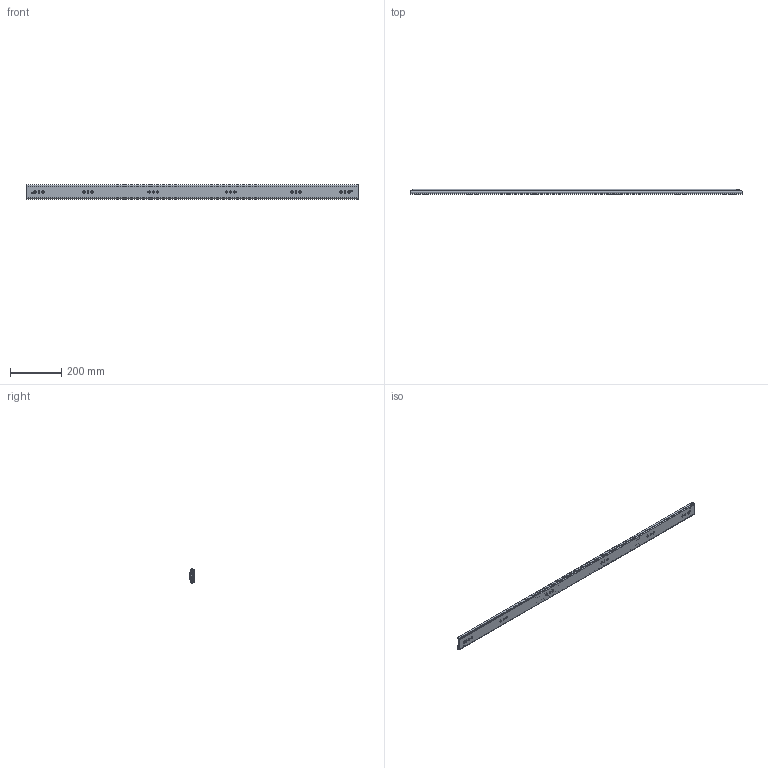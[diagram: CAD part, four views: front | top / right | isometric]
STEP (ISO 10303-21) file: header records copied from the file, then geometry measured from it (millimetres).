
FILE_DESCRIPTION((''),'2;1');
FILE_NAME('1057-C-52_ASM','2025-10-24T',('蔽翩'),(''),'CREO PARAMETRIC BY PTC INC, 2018220','CREO PARAMETRIC BY PTC INC, 2018220','');
FILE_SCHEMA(('CONFIG_CONTROL_DESIGN'));
Products named in the file (21): KP-57-01WEIKE-31_____________; MAODING-WAI_____________; 1057DAZHUJIA-20GE1_____________; 1057ZHUJIADANWEIJIAO1234; 1057-5-6GANZHU1_____________; 1057DAZHUJIA-20GE_12_____ASM; 1057-C-20-KE______________ASM; KP-57-01ZHONGGUI-36_____; PEIJIAN-22_____________; ZHUANJIAO112_____________; LIUJIAO-DING11_____________; MAODING-P_____________; 1057-XIAOJIAOLUN52; PEIJIAN-ZHONG______________ASM; 1057XIAOZHUJIA___2011_; 1057XIAOZHUJIA-20GE11__ASM; KP-57-01ZHONGGUI-36______ASM; KP-57-01NEIGUI-241_____________; XIN-JIAOGUAN52; KP-57-01NEIGUI-241______________ASM; 1057-C-52_ASM
Assembly tree (211 placements, depth 4):
  1057-C-52_ASM
    1057-C-20-KE______________ASM
      KP-57-01WEIKE-31_____________
      MAODING-WAI_____________  x2
      1057DAZHUJIA-20GE_12_____ASM
        1057DAZHUJIA-20GE1_____________
        1057ZHUJIADANWEIJIAO1234  x2
        1057-5-6GANZHU1_____________  x92
    KP-57-01ZHONGGUI-36______ASM
      KP-57-01ZHONGGUI-36_____
      PEIJIAN-ZHONG______________ASM  x2
        PEIJIAN-22_____________
        ZHUANJIAO112_____________
        LIUJIAO-DING11_____________
        MAODING-P_____________
        1057-XIAOJIAOLUN52
      MAODING-WAI_____________  x2
      1057XIAOZHUJIA-20GE11__ASM
        1057XIAOZHUJIA___2011_
        1057-5-6GANZHU1_____________  x92
        1057ZHUJIADANWEIJIAO1234  x2
    KP-57-01NEIGUI-241______________ASM
      KP-57-01NEIGUI-241_____________
      XIN-JIAOGUAN52  x2
Bounding box: 1300 x 19.8 x 57.67 mm (x, y, z)
Volume: 561916.4 mm3; surface area: 656973.8 mm2
Topology: 209 solids, 209 shells, 5166 faces, 14382 edges, 8892 vertices
Faces by surface type: plane 2310, cylinder 2118, sphere 374, bspline 146, cone 114, torus 96, extrusion 8
Entity records: 149389 total; most frequent: CARTESIAN_POINT 31127, DIRECTION 25184, ORIENTED_EDGE 24502, EDGE_CURVE 12251, AXIS2_PLACEMENT_3D 8684, VERTEX_POINT 7882, VECTOR 7816, LINE 7812
